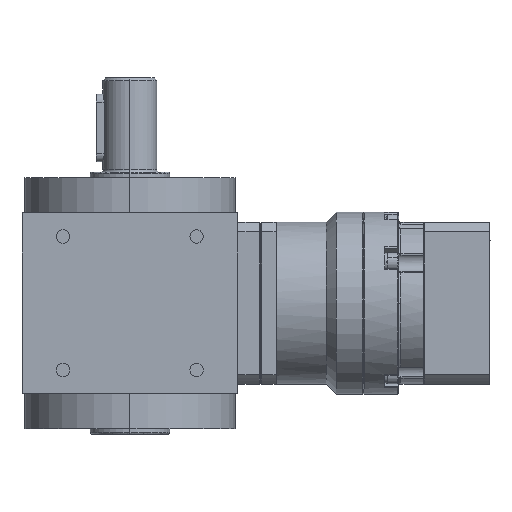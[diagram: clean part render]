
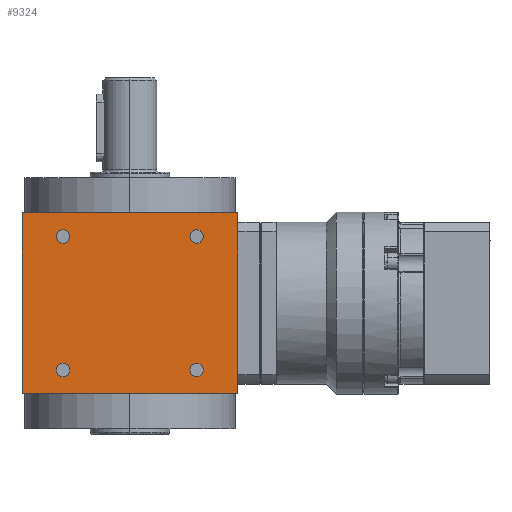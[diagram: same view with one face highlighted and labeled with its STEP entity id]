
A CAD part, left-side view. The second image highlights one B-rep face of the part: STEP entity #9324.
In plain terms, the highlighted planar face has unit normal (-1, 0, 0).
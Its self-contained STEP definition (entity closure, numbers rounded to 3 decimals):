
#948 = LINE ( 'NONE', #22598, #15395 ) ;
#1182 = CARTESIAN_POINT ( 'NONE',  ( -40., 24.75, 24.75 ) ) ;
#1712 = CARTESIAN_POINT ( 'NONE',  ( -40., -24.75, 24.75 ) ) ;
#2046 = CARTESIAN_POINT ( 'NONE',  ( -40., -24.75, -24.75 ) ) ;
#2209 = ORIENTED_EDGE ( 'NONE', *, *, #23043, .T. ) ;
#2410 = ORIENTED_EDGE ( 'NONE', *, *, #22978, .T. ) ;
#2619 = ORIENTED_EDGE ( 'NONE', *, *, #9061, .T. ) ;
#2656 = ORIENTED_EDGE ( 'NONE', *, *, #25182, .F. ) ;
#2927 = VERTEX_POINT ( 'NONE', #19547 ) ;
#3093 = DIRECTION ( 'NONE',  ( 0., -1., 0. ) ) ;
#3126 = AXIS2_PLACEMENT_3D ( 'NONE', #7176, #16489, #12143 ) ;
#3243 = EDGE_CURVE ( 'NONE', #18433, #10201, #17145, .T. ) ;
#3408 = VERTEX_POINT ( 'NONE', #7798 ) ;
#3625 = CARTESIAN_POINT ( 'NONE',  ( -40., -24.75, 24.75 ) ) ;
#3715 = VERTEX_POINT ( 'NONE', #20930 ) ;
#4007 = VERTEX_POINT ( 'NONE', #14273 ) ;
#4280 = CIRCLE ( 'NONE', #29903, 2.5 ) ;
#4456 = CARTESIAN_POINT ( 'NONE',  ( -40., 24.75, -24.75 ) ) ;
#4810 = DIRECTION ( 'NONE',  ( 0., -1., 0. ) ) ;
#4882 = VERTEX_POINT ( 'NONE', #27021 ) ;
#5376 = CARTESIAN_POINT ( 'NONE',  ( -40., 0., 33.5 ) ) ;
#5393 = CARTESIAN_POINT ( 'NONE',  ( -40., -22.25, 24.75 ) ) ;
#5793 = VECTOR ( 'NONE', #24933, 1000. ) ;
#6150 = DIRECTION ( 'NONE',  ( 0., -1., 0. ) ) ;
#6851 = DIRECTION ( 'NONE',  ( 0., -1., 0. ) ) ;
#7103 = CIRCLE ( 'NONE', #10161, 2.5 ) ;
#7176 = CARTESIAN_POINT ( 'NONE',  ( -40., 40., -33.5 ) ) ;
#7348 = AXIS2_PLACEMENT_3D ( 'NONE', #2046, #28815, #6851 ) ;
#7798 = CARTESIAN_POINT ( 'NONE',  ( -40., -22.25, -24.75 ) ) ;
#7908 = AXIS2_PLACEMENT_3D ( 'NONE', #1712, #21276, #23526 ) ;
#8457 = CARTESIAN_POINT ( 'NONE',  ( -40., -40., -33.5 ) ) ;
#8511 = AXIS2_PLACEMENT_3D ( 'NONE', #19423, #31259, #4810 ) ;
#8580 = DIRECTION ( 'NONE',  ( 1., 0., 0. ) ) ;
#8950 = ORIENTED_EDGE ( 'NONE', *, *, #11125, .F. ) ;
#9061 = EDGE_CURVE ( 'NONE', #22265, #2927, #948, .T. ) ;
#9182 = ORIENTED_EDGE ( 'NONE', *, *, #3243, .T. ) ;
#9324 = ADVANCED_FACE ( 'NONE', ( #31524, #21931, #14560, #31372, #14245 ), #9425, .T. ) ;
#9425 = PLANE ( 'NONE',  #3126 ) ;
#9580 = EDGE_CURVE ( 'NONE', #10201, #18433, #28755, .T. ) ;
#10161 = AXIS2_PLACEMENT_3D ( 'NONE', #4456, #19221, #22362 ) ;
#10201 = VERTEX_POINT ( 'NONE', #22919 ) ;
#10617 = LINE ( 'NONE', #28103, #25464 ) ;
#10850 = EDGE_LOOP ( 'NONE', ( #22418, #14269 ) ) ;
#11125 = EDGE_CURVE ( 'NONE', #18117, #2927, #15155, .T. ) ;
#11640 = EDGE_CURVE ( 'NONE', #4882, #3715, #4280, .T. ) ;
#11839 = AXIS2_PLACEMENT_3D ( 'NONE', #3625, #8580, #28313 ) ;
#12038 = AXIS2_PLACEMENT_3D ( 'NONE', #1182, #20125, #29895 ) ;
#12143 = DIRECTION ( 'NONE',  ( 0., -1., 0. ) ) ;
#13023 = DIRECTION ( 'NONE',  ( 1., 0., 0. ) ) ;
#13149 = CIRCLE ( 'NONE', #8511, 2.5 ) ;
#13411 = VERTEX_POINT ( 'NONE', #23788 ) ;
#13892 = EDGE_CURVE ( 'NONE', #22615, #13411, #13149, .T. ) ;
#14245 = FACE_BOUND ( 'NONE', #10850, .T. ) ;
#14269 = ORIENTED_EDGE ( 'NONE', *, *, #18386, .T. ) ;
#14273 = CARTESIAN_POINT ( 'NONE',  ( -40., -27.25, -24.75 ) ) ;
#14560 = FACE_BOUND ( 'NONE', #20840, .T. ) ;
#14592 = VERTEX_POINT ( 'NONE', #18672 ) ;
#15066 = DIRECTION ( 'NONE',  ( 0., 0., 1. ) ) ;
#15155 = LINE ( 'NONE', #5376, #5793 ) ;
#15244 = ORIENTED_EDGE ( 'NONE', *, *, #11640, .T. ) ;
#15395 = VECTOR ( 'NONE', #15066, 1000. ) ;
#15428 = ORIENTED_EDGE ( 'NONE', *, *, #13892, .T. ) ;
#15865 = EDGE_LOOP ( 'NONE', ( #2656, #2209, #2619, #8950 ) ) ;
#16489 = DIRECTION ( 'NONE',  ( -1., 0., 0. ) ) ;
#16819 = CARTESIAN_POINT ( 'NONE',  ( -40., -24.75, -24.75 ) ) ;
#17051 = ORIENTED_EDGE ( 'NONE', *, *, #31221, .T. ) ;
#17145 = CIRCLE ( 'NONE', #7908, 2.5 ) ;
#17768 = CARTESIAN_POINT ( 'NONE',  ( -40., 22.25, -24.75 ) ) ;
#17873 = AXIS2_PLACEMENT_3D ( 'NONE', #16819, #31214, #21457 ) ;
#18117 = VERTEX_POINT ( 'NONE', #22895 ) ;
#18386 = EDGE_CURVE ( 'NONE', #3408, #4007, #25776, .T. ) ;
#18433 = VERTEX_POINT ( 'NONE', #5393 ) ;
#18672 = CARTESIAN_POINT ( 'NONE',  ( -40., 40., -33.5 ) ) ;
#19221 = DIRECTION ( 'NONE',  ( 1., 0., 0. ) ) ;
#19423 = CARTESIAN_POINT ( 'NONE',  ( -40., 24.75, -24.75 ) ) ;
#19547 = CARTESIAN_POINT ( 'NONE',  ( -40., -40., 33.5 ) ) ;
#19943 = ORIENTED_EDGE ( 'NONE', *, *, #9580, .T. ) ;
#20125 = DIRECTION ( 'NONE',  ( 1., 0., 0. ) ) ;
#20148 = EDGE_LOOP ( 'NONE', ( #15428, #17051 ) ) ;
#20410 = DIRECTION ( 'NONE',  ( 0., 0., 1. ) ) ;
#20576 = LINE ( 'NONE', #30349, #28931 ) ;
#20840 = EDGE_LOOP ( 'NONE', ( #2410, #15244 ) ) ;
#20930 = CARTESIAN_POINT ( 'NONE',  ( -40., 22.25, 24.75 ) ) ;
#21276 = DIRECTION ( 'NONE',  ( 1., 0., 0. ) ) ;
#21457 = DIRECTION ( 'NONE',  ( 0., -1., 0. ) ) ;
#21931 = FACE_BOUND ( 'NONE', #20148, .T. ) ;
#22265 = VERTEX_POINT ( 'NONE', #8457 ) ;
#22362 = DIRECTION ( 'NONE',  ( 0., -1., 0. ) ) ;
#22418 = ORIENTED_EDGE ( 'NONE', *, *, #31291, .T. ) ;
#22598 = CARTESIAN_POINT ( 'NONE',  ( -40., -40., -33.5 ) ) ;
#22615 = VERTEX_POINT ( 'NONE', #17768 ) ;
#22895 = CARTESIAN_POINT ( 'NONE',  ( -40., 40., 33.5 ) ) ;
#22919 = CARTESIAN_POINT ( 'NONE',  ( -40., -27.25, 24.75 ) ) ;
#22978 = EDGE_CURVE ( 'NONE', #3715, #4882, #24827, .T. ) ;
#23043 = EDGE_CURVE ( 'NONE', #14592, #22265, #20576, .T. ) ;
#23112 = CARTESIAN_POINT ( 'NONE',  ( -40., 24.75, 24.75 ) ) ;
#23526 = DIRECTION ( 'NONE',  ( 0., -1., 0. ) ) ;
#23788 = CARTESIAN_POINT ( 'NONE',  ( -40., 27.25, -24.75 ) ) ;
#23994 = CIRCLE ( 'NONE', #17873, 2.5 ) ;
#24827 = CIRCLE ( 'NONE', #12038, 2.5 ) ;
#24933 = DIRECTION ( 'NONE',  ( 0., -1., 0. ) ) ;
#25182 = EDGE_CURVE ( 'NONE', #14592, #18117, #10617, .T. ) ;
#25464 = VECTOR ( 'NONE', #20410, 1000. ) ;
#25776 = CIRCLE ( 'NONE', #7348, 2.5 ) ;
#27021 = CARTESIAN_POINT ( 'NONE',  ( -40., 27.25, 24.75 ) ) ;
#28103 = CARTESIAN_POINT ( 'NONE',  ( -40., 40., -33.5 ) ) ;
#28313 = DIRECTION ( 'NONE',  ( 0., -1., 0. ) ) ;
#28755 = CIRCLE ( 'NONE', #11839, 2.5 ) ;
#28815 = DIRECTION ( 'NONE',  ( 1., 0., 0. ) ) ;
#28931 = VECTOR ( 'NONE', #6150, 1000. ) ;
#29895 = DIRECTION ( 'NONE',  ( 0., -1., 0. ) ) ;
#29903 = AXIS2_PLACEMENT_3D ( 'NONE', #23112, #13023, #3093 ) ;
#29987 = EDGE_LOOP ( 'NONE', ( #19943, #9182 ) ) ;
#30349 = CARTESIAN_POINT ( 'NONE',  ( -40., 0., -33.5 ) ) ;
#31214 = DIRECTION ( 'NONE',  ( 1., 0., 0. ) ) ;
#31221 = EDGE_CURVE ( 'NONE', #13411, #22615, #7103, .T. ) ;
#31259 = DIRECTION ( 'NONE',  ( 1., 0., 0. ) ) ;
#31291 = EDGE_CURVE ( 'NONE', #4007, #3408, #23994, .T. ) ;
#31372 = FACE_BOUND ( 'NONE', #29987, .T. ) ;
#31524 = FACE_OUTER_BOUND ( 'NONE', #15865, .T. ) ;
